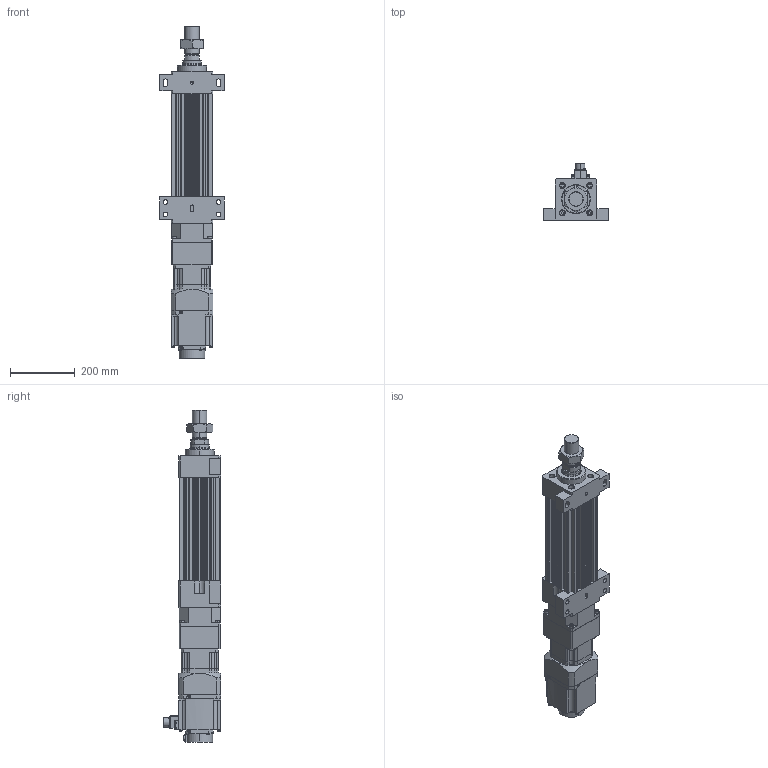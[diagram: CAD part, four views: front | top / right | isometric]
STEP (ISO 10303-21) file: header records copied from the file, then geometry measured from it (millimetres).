
FILE_DESCRIPTION (( 'STEP AP203' ), '1' );
FILE_NAME ('HES130NS(FS)(HS)-S100-W015G00-M-FFB.STEP', '2023-01-30T08:47:11', ( 'tms' ), ( '' ), 'SwSTEP 2.0', 'SolidWorks 2013', '' );
FILE_SCHEMA (( 'CONFIG_CONTROL_DESIGN' ));
Length unit declared in the file: millimetre
Products named in the file (8): HG-SR152; P0401400706; M45X1.5P; HES130NS(FS)(HS)-S100-W015G00-M-FFB; AB115-003[HG-SR152]; HES130-S100-G120-FFB; HES130 ROD M ST100; AB1151
Assembly tree (7 placements, depth 3):
  HES130NS(FS)(HS)-S100-W015G00-M-FFB
    HES130-S100-G120-FFB
    HES130 ROD M ST100
    M45X1.5P
    AB115-003[HG-SR152]
      AB1151
      P0401400706
    HG-SR152
Bounding box: 200 x 177.49 x 1029.5 mm (x, y, z)
Volume: 8225110.7 mm3; surface area: 993746.2 mm2
Topology: 4 solids, 15 shells, 1211 faces, 3070 edges, 1998 vertices
Faces by surface type: plane 571, cylinder 546, cone 82, bspline 8, torus 4
Entity records: 38310 total; most frequent: CARTESIAN_POINT 7264, DIRECTION 6633, ORIENTED_EDGE 6092, EDGE_CURVE 3056, AXIS2_PLACEMENT_3D 2435, VERTEX_POINT 1998, LINE 1763, VECTOR 1763
